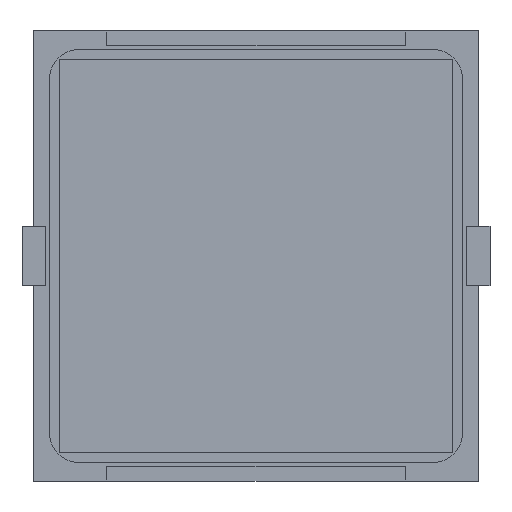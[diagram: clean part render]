
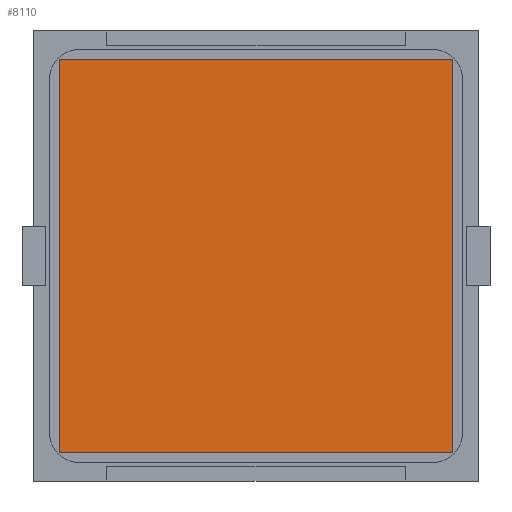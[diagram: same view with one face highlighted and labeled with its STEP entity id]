
A CAD part, front view. The second image highlights one B-rep face of the part: STEP entity #8110.
In plain terms, the highlighted planar face has unit normal (0, -1, 0).
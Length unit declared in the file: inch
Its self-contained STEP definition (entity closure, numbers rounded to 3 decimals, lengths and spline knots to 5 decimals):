
#402 = CARTESIAN_POINT ( 'NONE',  ( -0.64961, -0.005, -0.64961 ) ) ;
#735 = LINE ( 'NONE', #2201, #10480 ) ;
#1245 = DIRECTION ( 'NONE',  ( 0., 0., -1. ) ) ;
#1291 = EDGE_CURVE ( 'NONE', #7834, #3690, #8662, .T. ) ;
#1357 = ORIENTED_EDGE ( 'NONE', *, *, #1291, .F. ) ;
#1674 = DIRECTION ( 'NONE',  ( 0., 0., 1. ) ) ;
#2114 = DIRECTION ( 'NONE',  ( 0., 0., 1. ) ) ;
#2153 = EDGE_CURVE ( 'NONE', #9248, #8993, #9438, .T. ) ;
#2201 = CARTESIAN_POINT ( 'NONE',  ( -0.64961, -0.005, -0.64961 ) ) ;
#2295 = EDGE_LOOP ( 'NONE', ( #6331, #3977, #1357, #4562 ) ) ;
#2837 = AXIS2_PLACEMENT_3D ( 'NONE', #5753, #9096, #1674 ) ;
#3075 = VECTOR ( 'NONE', #2114, 39.37008 ) ;
#3238 = EDGE_CURVE ( 'NONE', #8993, #7834, #3507, .T. ) ;
#3322 = FACE_OUTER_BOUND ( 'NONE', #2295, .T. ) ;
#3507 = LINE ( 'NONE', #5282, #9633 ) ;
#3690 = VERTEX_POINT ( 'NONE', #7836 ) ;
#3977 = ORIENTED_EDGE ( 'NONE', *, *, #9022, .F. ) ;
#4562 = ORIENTED_EDGE ( 'NONE', *, *, #3238, .F. ) ;
#4786 = DIRECTION ( 'NONE',  ( -1., 0., 0. ) ) ;
#4810 = CARTESIAN_POINT ( 'NONE',  ( 0.64961, -0.005, 0.64961 ) ) ;
#5282 = CARTESIAN_POINT ( 'NONE',  ( -0.64961, -0.005, 0.64961 ) ) ;
#5753 = CARTESIAN_POINT ( 'NONE',  ( -0.64961, -0.005, 0.64961 ) ) ;
#6331 = ORIENTED_EDGE ( 'NONE', *, *, #2153, .F. ) ;
#6514 = CARTESIAN_POINT ( 'NONE',  ( -0.64961, -0.005, 0.64961 ) ) ;
#7834 = VERTEX_POINT ( 'NONE', #4810 ) ;
#7836 = CARTESIAN_POINT ( 'NONE',  ( 0.64961, -0.005, -0.64961 ) ) ;
#8110 = ADVANCED_FACE ( 'NONE', ( #3322 ), #9961, .F. ) ;
#8332 = VECTOR ( 'NONE', #1245, 39.37008 ) ;
#8498 = CARTESIAN_POINT ( 'NONE',  ( 0.64961, -0.005, -0.64961 ) ) ;
#8662 = LINE ( 'NONE', #8498, #8332 ) ;
#8993 = VERTEX_POINT ( 'NONE', #6514 ) ;
#9022 = EDGE_CURVE ( 'NONE', #3690, #9248, #735, .T. ) ;
#9096 = DIRECTION ( 'NONE',  ( 0., 1., 0. ) ) ;
#9248 = VERTEX_POINT ( 'NONE', #9517 ) ;
#9438 = LINE ( 'NONE', #402, #3075 ) ;
#9483 = DIRECTION ( 'NONE',  ( 1., 0., 0. ) ) ;
#9517 = CARTESIAN_POINT ( 'NONE',  ( -0.64961, -0.005, -0.64961 ) ) ;
#9633 = VECTOR ( 'NONE', #9483, 39.37008 ) ;
#9961 = PLANE ( 'NONE',  #2837 ) ;
#10480 = VECTOR ( 'NONE', #4786, 39.37008 ) ;
